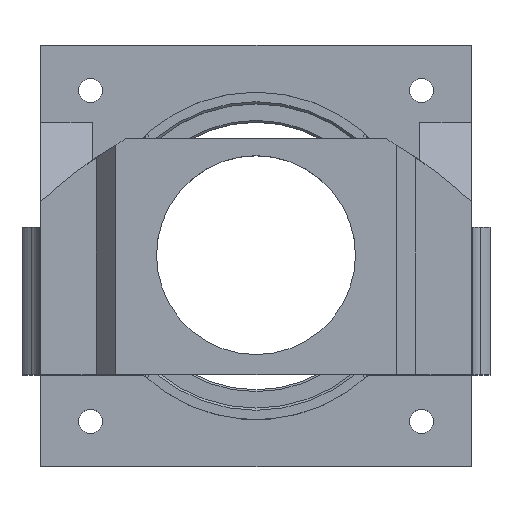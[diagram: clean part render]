
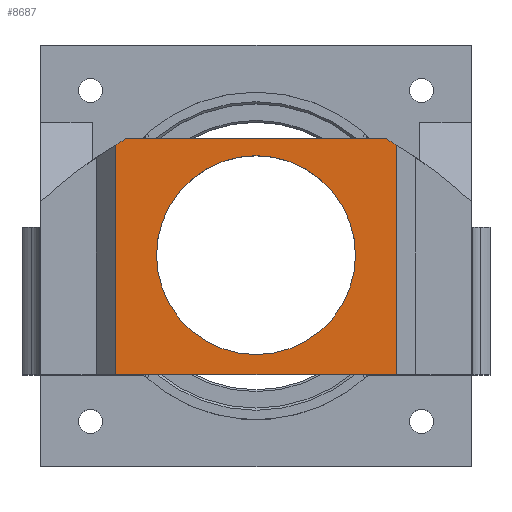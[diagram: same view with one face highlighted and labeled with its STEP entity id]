
A CAD part, top view. The second image highlights one B-rep face of the part: STEP entity #8687.
In plain terms, the highlighted planar face has unit normal (0, 0, 1).
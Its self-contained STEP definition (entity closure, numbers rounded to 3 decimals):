
#69 = VERTEX_POINT ( 'NONE', #8312 ) ;
#80 = CARTESIAN_POINT ( 'NONE',  ( -60., -51., 230. ) ) ;
#376 = ORIENTED_EDGE ( 'NONE', *, *, #17451, .F. ) ;
#628 = ORIENTED_EDGE ( 'NONE', *, *, #11740, .T. ) ;
#1210 = EDGE_CURVE ( 'NONE', #5516, #4283, #1565, .T. ) ;
#1565 = LINE ( 'NONE', #7408, #16767 ) ;
#1975 = CARTESIAN_POINT ( 'NONE',  ( -60., 50., 230. ) ) ;
#2510 = DIRECTION ( 'NONE',  ( 0., 0., -1. ) ) ;
#2521 = VECTOR ( 'NONE', #4229, 1000. ) ;
#2785 = AXIS2_PLACEMENT_3D ( 'NONE', #10817, #12201, #3915 ) ;
#3125 = FACE_BOUND ( 'NONE', #4220, .T. ) ;
#3347 = EDGE_CURVE ( 'NONE', #8990, #5516, #6262, .T. ) ;
#3556 = VERTEX_POINT ( 'NONE', #16349 ) ;
#3675 = VECTOR ( 'NONE', #11666, 1000. ) ;
#3915 = DIRECTION ( 'NONE',  ( -1., 0., 0. ) ) ;
#4220 = EDGE_LOOP ( 'NONE', ( #11383, #376 ) ) ;
#4229 = DIRECTION ( 'NONE',  ( 0., -1., 0. ) ) ;
#4283 = VERTEX_POINT ( 'NONE', #12021 ) ;
#5227 = CIRCLE ( 'NONE', #6075, 200. ) ;
#5260 = PLANE ( 'NONE',  #2785 ) ;
#5311 = AXIS2_PLACEMENT_3D ( 'NONE', #5348, #15032, #6730 ) ;
#5346 = AXIS2_PLACEMENT_3D ( 'NONE', #10831, #2510, #12217 ) ;
#5348 = CARTESIAN_POINT ( 'NONE',  ( 0., 0., 230. ) ) ;
#5383 = VERTEX_POINT ( 'NONE', #15736 ) ;
#5435 = CIRCLE ( 'NONE', #10399, 42.5 ) ;
#5516 = VERTEX_POINT ( 'NONE', #16185 ) ;
#6075 = AXIS2_PLACEMENT_3D ( 'NONE', #7320, #17015, #8703 ) ;
#6262 = LINE ( 'NONE', #80, #2521 ) ;
#6273 = ORIENTED_EDGE ( 'NONE', *, *, #11061, .F. ) ;
#6730 = DIRECTION ( 'NONE',  ( 1., 0., 0. ) ) ;
#6791 = FACE_OUTER_BOUND ( 'NONE', #8197, .T. ) ;
#7320 = CARTESIAN_POINT ( 'NONE',  ( 44.035, -123.759, 230. ) ) ;
#7408 = CARTESIAN_POINT ( 'NONE',  ( -60., -51., 230. ) ) ;
#7801 = LINE ( 'NONE', #8845, #15169 ) ;
#7859 = CARTESIAN_POINT ( 'NONE',  ( 0., 0., 230. ) ) ;
#8197 = EDGE_LOOP ( 'NONE', ( #10325, #6273, #628, #14824, #10522, #9194 ) ) ;
#8312 = CARTESIAN_POINT ( 'NONE',  ( 55., 50., 230. ) ) ;
#8687 = ADVANCED_FACE ( 'NONE', ( #3125, #6791 ), #5260, .F. ) ;
#8703 = DIRECTION ( 'NONE',  ( -1., 0., 0. ) ) ;
#8845 = CARTESIAN_POINT ( 'NONE',  ( 60., -51., 230. ) ) ;
#8990 = VERTEX_POINT ( 'NONE', #14837 ) ;
#9194 = ORIENTED_EDGE ( 'NONE', *, *, #1210, .T. ) ;
#9238 = DIRECTION ( 'NONE',  ( 1., 0., 0. ) ) ;
#9964 = EDGE_CURVE ( 'NONE', #17488, #8990, #5227, .T. ) ;
#10166 = DIRECTION ( 'NONE',  ( 0., 1., 0. ) ) ;
#10325 = ORIENTED_EDGE ( 'NONE', *, *, #11647, .T. ) ;
#10399 = AXIS2_PLACEMENT_3D ( 'NONE', #7859, #17570, #9238 ) ;
#10522 = ORIENTED_EDGE ( 'NONE', *, *, #3347, .T. ) ;
#10817 = CARTESIAN_POINT ( 'NONE',  ( 60., 50., 230. ) ) ;
#10831 = CARTESIAN_POINT ( 'NONE',  ( -44.035, -123.759, 230. ) ) ;
#11061 = EDGE_CURVE ( 'NONE', #69, #3556, #11713, .T. ) ;
#11383 = ORIENTED_EDGE ( 'NONE', *, *, #13339, .F. ) ;
#11506 = DIRECTION ( 'NONE',  ( 1., 0., 0. ) ) ;
#11647 = EDGE_CURVE ( 'NONE', #4283, #3556, #7801, .T. ) ;
#11666 = DIRECTION ( 'NONE',  ( -1., 0., 0. ) ) ;
#11713 = CIRCLE ( 'NONE', #5346, 200. ) ;
#11740 = EDGE_CURVE ( 'NONE', #69, #17488, #14320, .T. ) ;
#12021 = CARTESIAN_POINT ( 'NONE',  ( 60., -51., 230. ) ) ;
#12201 = DIRECTION ( 'NONE',  ( 0., 0., -1. ) ) ;
#12217 = DIRECTION ( 'NONE',  ( -1., 0., 0. ) ) ;
#13339 = EDGE_CURVE ( 'NONE', #5383, #16347, #16075, .T. ) ;
#13452 = CARTESIAN_POINT ( 'NONE',  ( -42.5, 0., 230. ) ) ;
#14320 = LINE ( 'NONE', #1975, #3675 ) ;
#14824 = ORIENTED_EDGE ( 'NONE', *, *, #9964, .T. ) ;
#14837 = CARTESIAN_POINT ( 'NONE',  ( -60., 47.053, 230. ) ) ;
#15032 = DIRECTION ( 'NONE',  ( 0., 0., 1. ) ) ;
#15169 = VECTOR ( 'NONE', #10166, 1000. ) ;
#15736 = CARTESIAN_POINT ( 'NONE',  ( 42.5, 0., 230. ) ) ;
#16075 = CIRCLE ( 'NONE', #5311, 42.5 ) ;
#16185 = CARTESIAN_POINT ( 'NONE',  ( -60., -51., 230. ) ) ;
#16208 = CARTESIAN_POINT ( 'NONE',  ( -55., 50., 230. ) ) ;
#16347 = VERTEX_POINT ( 'NONE', #13452 ) ;
#16349 = CARTESIAN_POINT ( 'NONE',  ( 60., 47.053, 230. ) ) ;
#16767 = VECTOR ( 'NONE', #11506, 1000. ) ;
#17015 = DIRECTION ( 'NONE',  ( 0., 0., 1. ) ) ;
#17451 = EDGE_CURVE ( 'NONE', #16347, #5383, #5435, .T. ) ;
#17488 = VERTEX_POINT ( 'NONE', #16208 ) ;
#17570 = DIRECTION ( 'NONE',  ( 0., 0., 1. ) ) ;
